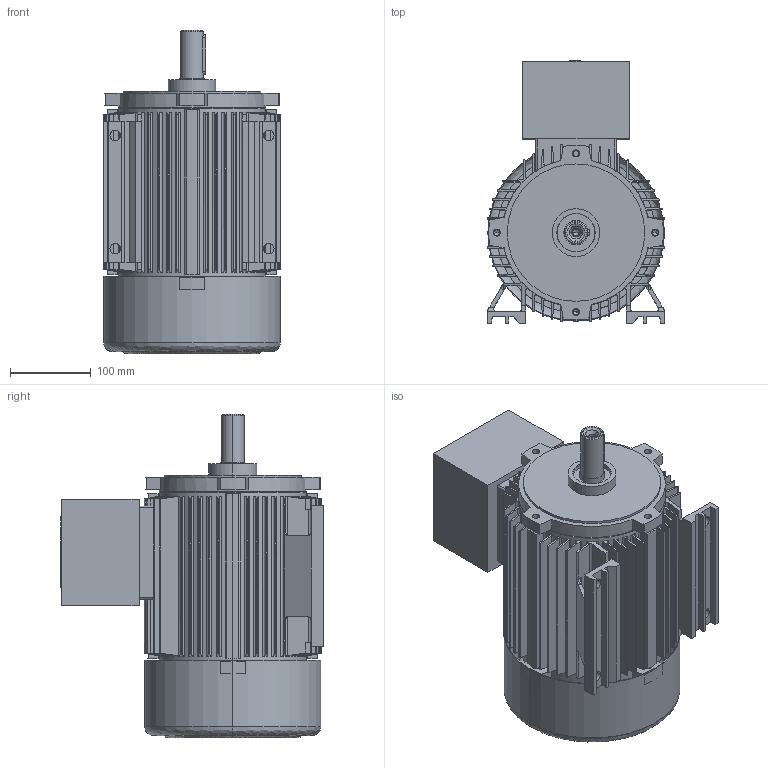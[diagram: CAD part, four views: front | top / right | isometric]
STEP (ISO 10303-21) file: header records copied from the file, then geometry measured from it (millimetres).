
FILE_DESCRIPTION (( 'STEP AP214' ), '1' );
FILE_NAME ('20.18394-A 5AT 112 B3 OG Exd.STEP', '2018-05-08T07:43:42', ( '' ), ( '' ), 'SwSTEP 2.0', 'SolidWorks 2017', '' );
FILE_SCHEMA (( 'AUTOMOTIVE_DESIGN' ));
Length unit declared in the file: millimetre
Products named in the file (1): 20.18394-A 5AT 112 B3 OG Exd
Bounding box: 220 x 325 x 399.8 mm (x, y, z)
Volume: 5520958.8 mm3; surface area: 1086780.2 mm2
Topology: 4 solids, 5 shells, 776 faces, 2021 edges, 1325 vertices
Faces by surface type: cylinder 337, plane 313, cone 112, bspline 14
Entity records: 34180 total; most frequent: CARTESIAN_POINT 8946, ORIENTED_EDGE 4010, DIRECTION 3600, EDGE_CURVE 2005, VERTEX_POINT 1325, AXIS2_PLACEMENT_3D 1314, VECTOR 972, LINE 972
